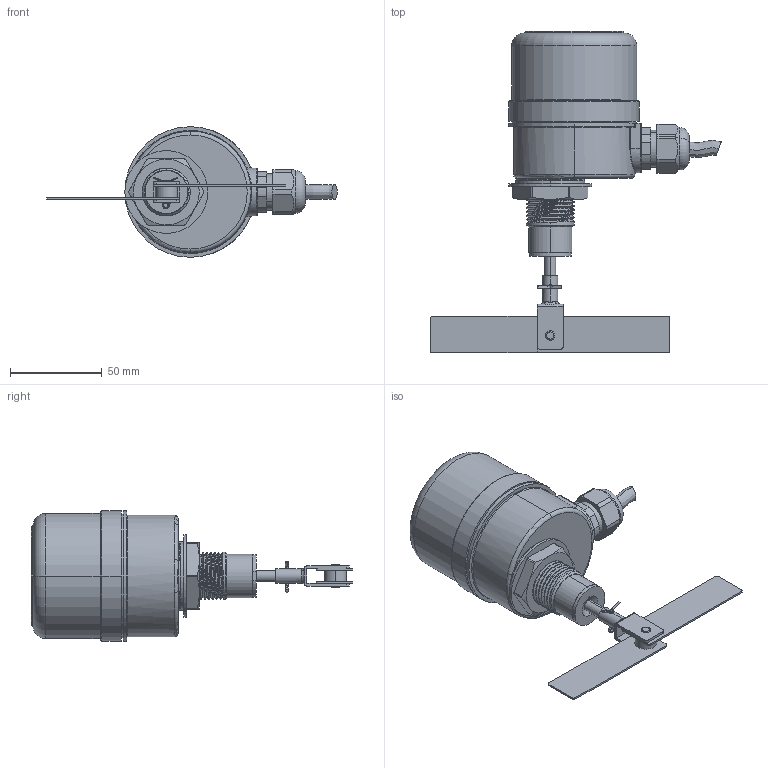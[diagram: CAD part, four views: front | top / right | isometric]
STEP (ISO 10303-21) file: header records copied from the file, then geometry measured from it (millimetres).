
FILE_DESCRIPTION (( 'STEP AP214' ), '1' );
FILE_NAME ('IL-MEA 220VAC ñêëàäíàÿ ëîïàñòü - ð.STEP', '2020-12-23T16:44:21', ( '' ), ( '' ), 'SwSTEP 2.0', 'SolidWorks 2020', '' );
FILE_SCHEMA (( 'AUTOMOTIVE_DESIGN' ));
Length unit declared in the file: millimetre
Products named in the file (8): Ëîïàñòü ñêëàäíàÿ; Êðûøêà; 崼鶇; IL-MEA 220VAC ñêëàäíàÿ ëîïàñòü - ð; 幄鼭歑; Øïèëüêà 2ìì; Êîðïóñ-ð; 扻錝僝鍧
Assembly tree (7 placements, depth 2):
  IL-MEA 220VAC ñêëàäíàÿ ëîïàñòü - ð
    Êîðïóñ-ð
    Êðûøêà
    幄鼭歑
    扻錝僝鍧
    崼鶇
    Øïèëüêà 2ìì
    Ëîïàñòü ñêëàäíàÿ
Bounding box: 157.97 x 175 x 71 mm (x, y, z)
Volume: 362334 mm3; surface area: 52400.5 mm2
Topology: 7 solids, 7 shells, 292 faces, 705 edges, 434 vertices
Faces by surface type: cylinder 128, plane 82, torus 53, bspline 17, cone 10, sphere 2
Entity records: 15686 total; most frequent: CARTESIAN_POINT 8574, DIRECTION 1493, ORIENTED_EDGE 1406, EDGE_CURVE 703, AXIS2_PLACEMENT_3D 611, VERTEX_POINT 434, CIRCLE 326, EDGE_LOOP 311
